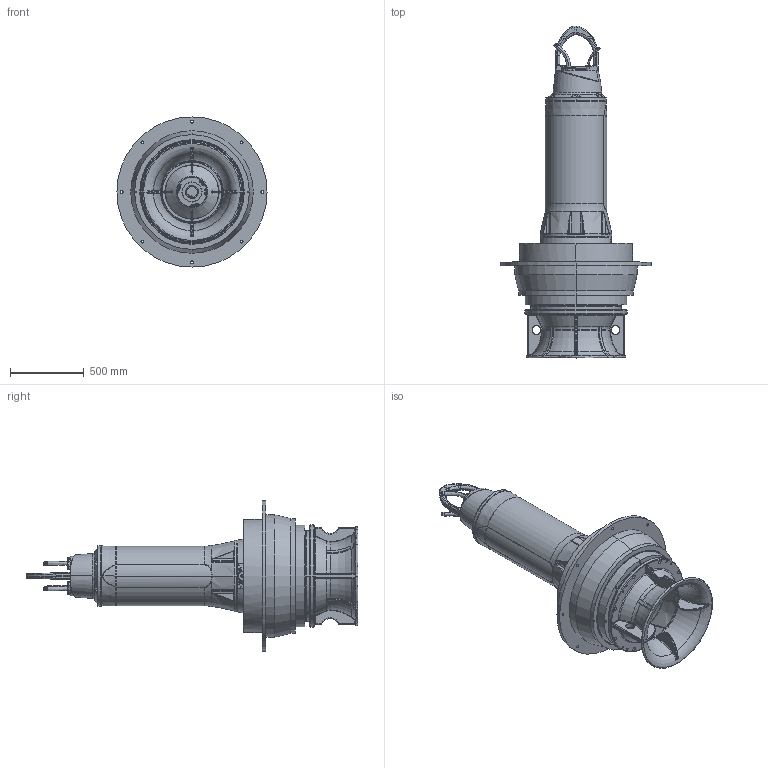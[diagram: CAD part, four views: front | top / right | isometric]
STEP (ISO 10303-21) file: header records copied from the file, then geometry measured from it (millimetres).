
FILE_DESCRIPTION (( 'STEP AP214' ), '1' );
FILE_NAME ('SE5 AFLC 0801-0803 FU B.STEP', '2020-09-25T06:53:19', ( '' ), ( '' ), 'SwSTEP 2.0', 'SolidWorks 2017', '' );
FILE_SCHEMA (( 'AUTOMOTIVE_DESIGN' ));
Length unit declared in the file: millimetre
Products named in the file (1): SE5 AFLC 0801-0803 FU B
Bounding box: 1015 x 2243.97 x 1015 mm (x, y, z)
Volume: 109195054.6 mm3; surface area: 12790834.1 mm2
Topology: 29 solids, 29 shells, 4374 faces, 10569 edges, 6149 vertices
Faces by surface type: bspline 1517, cylinder 1004, plane 787, torus 536, cone 459, sphere 71
Entity records: 332514 total; most frequent: CARTESIAN_POINT 193353, ORIENTED_EDGE 20622, DIRECTION 16791, EDGE_CURVE 10311, AXIS2_PLACEMENT_3D 6999, VERTEX_POINT 6148, EDGE_LOOP 4715, UNCERTAINTY_MEASURE_WITH_UNIT 4405
